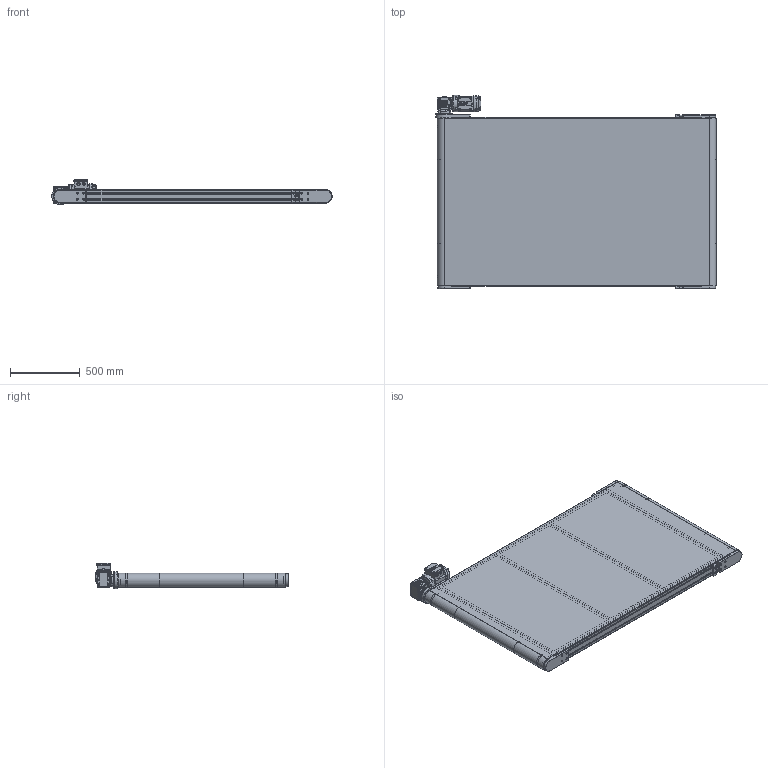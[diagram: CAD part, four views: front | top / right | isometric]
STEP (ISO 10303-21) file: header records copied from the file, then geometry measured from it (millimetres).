
FILE_DESCRIPTION (( 'STEP AP214' ), '1' );
FILE_NAME ('TB100 1200X2000 DIRECT A GAUCHE SEW.STEP', '2022-10-11T15:02:37', ( '' ), ( '' ), 'SwSTEP 2.0', 'SolidWorks 2022', '' );
FILE_SCHEMA (( 'AUTOMOTIVE_DESIGN' ));
Length unit declared in the file: millimetre
Products named in the file (29): 987-008; 910-011; 2021_01_18__17-00-46-764; 988-001; WAF20DRN63M4_A270°; 2021_01_18__17-00-46-577; 2021_01_18__17-00-46-671; CHASSIS TB100 1200X2000_Défaut<Brut d''usinage>; 2021_01_18__17-00-46-733; TH_910-167-25; 2021_01_18__17-00-46-546; 987-000; CHC THE_910-053H; 2021_01_18__17-00-46-702; 988-000-SEW; 987-016-SEW; 2021_01_18__17-00-46-796; CHC THE_910-052H; 987-001K8_987-001K8-1200; 987-003; 2021_01_18__17-00-46-608; TH_910-190-30; 2021_01_18__17-00-46-514; 905-020; TB100 1200X2000 DIRECT A GAUCHE SEW; 2021_01_18__17-00-46-639; CLAVETTE_910-212-50; 988-002; 987-002-SEW
Assembly tree (47 placements, depth 3):
  TB100 1200X2000 DIRECT A GAUCHE SEW
    CHASSIS TB100 1200X2000_Défaut<Brut d''usinage>
    988-001  x3
      987-000
      987-003
      CHC THE_910-052H
      905-020
    988-002  x2
      987-008
      CHC THE_910-052H
      910-011
      TH_910-190-30
    987-001K8_987-001K8-1200  x2
    988-000-SEW
      987-016-SEW
      987-002-SEW
      CHC THE_910-053H  x4
      CLAVETTE_910-212-50
      TH_910-167-25  x4
      905-020  x2
    WAF20DRN63M4_A270°
      2021_01_18__17-00-46-796
      2021_01_18__17-00-46-764
      2021_01_18__17-00-46-733
      2021_01_18__17-00-46-702
      2021_01_18__17-00-46-671
      2021_01_18__17-00-46-639
      2021_01_18__17-00-46-608
      2021_01_18__17-00-46-577
      2021_01_18__17-00-46-546
      2021_01_18__17-00-46-514
Bounding box: 2010 x 1384.01 x 181 mm (x, y, z)
Volume: 49669461 mm3; surface area: 20468262.2 mm2
Topology: 71 solids, 71 shells, 2422 faces, 6160 edges, 3986 vertices
Faces by surface type: plane 1503, cylinder 540, cone 280, torus 69, bspline 30
Full cylindrical faces by diameter (mm): 5 x4, 6 x33, 6.6 x12, 6.8 x22, 7.3 x12, 7.98 x20, 8 x26, 9 x20, 10 x2, 13 x40, 20 x2, 24 x1, 25 x1, 30 x3, 40 x1, 44 x2, 45 x6, 54 x3, 59 x6, 71 x6, 75 x2, 80 x2, 82 x3, 84 x4, 85 x8, 96 x2, 117 x1, 120 x1
Entity records: 58889 total; most frequent: CARTESIAN_POINT 12657, ORIENTED_EDGE 7606, DIRECTION 7437, EDGE_CURVE 3803, VECTOR 2655, LINE 2655, VERTEX_POINT 2591, AXIS2_PLACEMENT_3D 2391
